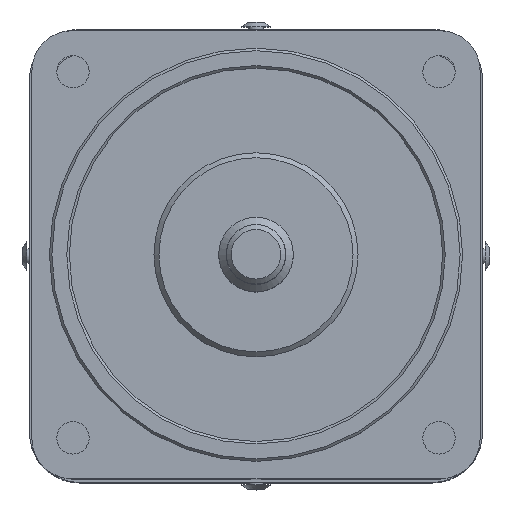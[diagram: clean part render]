
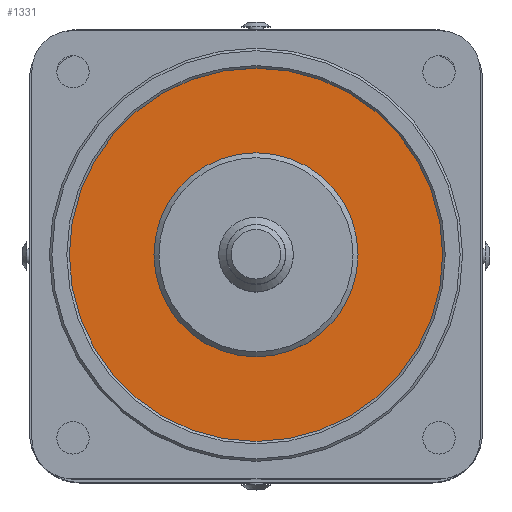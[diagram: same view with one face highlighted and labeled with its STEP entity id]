
A CAD part, top view. The second image highlights one B-rep face of the part: STEP entity #1331.
In plain terms, the highlighted planar face has unit normal (0, 0, 1).
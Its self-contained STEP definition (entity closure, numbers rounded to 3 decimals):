
#169 = EDGE_CURVE ( 'NONE', #938, #938, #1950, .T. ) ;
#170 = EDGE_CURVE ( 'NONE', #939, #939, #1951, .T. ) ;
#371 = AXIS2_PLACEMENT_3D ( 'NONE', #5301, #5306, #5307 ) ;
#938 = VERTEX_POINT ( 'NONE', #3683 ) ;
#939 = VERTEX_POINT ( 'NONE', #3684 ) ;
#1331 = ADVANCED_FACE ( 'NONE', ( #9319, #9322 ), #5300, .T. ) ;
#1689 = EDGE_LOOP ( 'NONE', ( #7286 ) ) ;
#1690 = EDGE_LOOP ( 'NONE', ( #7287 ) ) ;
#1950 = CIRCLE ( 'NONE', #8133, 37.5 ) ;
#1951 = CIRCLE ( 'NONE', #8134, 20.5 ) ;
#2409 = CARTESIAN_POINT ( 'NONE',  ( 0., 0., -2. ) ) ;
#2410 = DIRECTION ( 'NONE',  ( 0., 0., 1. ) ) ;
#2411 = DIRECTION ( 'NONE',  ( 1., 0., 0. ) ) ;
#2413 = CARTESIAN_POINT ( 'NONE',  ( 0., 0., -2. ) ) ;
#2414 = DIRECTION ( 'NONE',  ( 0., 0., 1. ) ) ;
#2415 = DIRECTION ( 'NONE',  ( 1., 0., 0. ) ) ;
#3683 = CARTESIAN_POINT ( 'NONE',  ( 37.5, 0., -2. ) ) ;
#3684 = CARTESIAN_POINT ( 'NONE',  ( 20.5, 0., -2. ) ) ;
#5300 = PLANE ( 'NONE',  #371 ) ;
#5301 = CARTESIAN_POINT ( 'NONE',  ( 0., 0., -2. ) ) ;
#5306 = DIRECTION ( 'NONE',  ( 0., 0., 1. ) ) ;
#5307 = DIRECTION ( 'NONE',  ( 1., 0., 0. ) ) ;
#7286 = ORIENTED_EDGE ( 'NONE', *, *, #169, .T. ) ;
#7287 = ORIENTED_EDGE ( 'NONE', *, *, #170, .F. ) ;
#8133 = AXIS2_PLACEMENT_3D ( 'NONE', #2409, #2410, #2411 ) ;
#8134 = AXIS2_PLACEMENT_3D ( 'NONE', #2413, #2414, #2415 ) ;
#9319 = FACE_OUTER_BOUND ( 'NONE', #1689, .T. ) ;
#9322 = FACE_BOUND ( 'NONE', #1690, .T. ) ;
